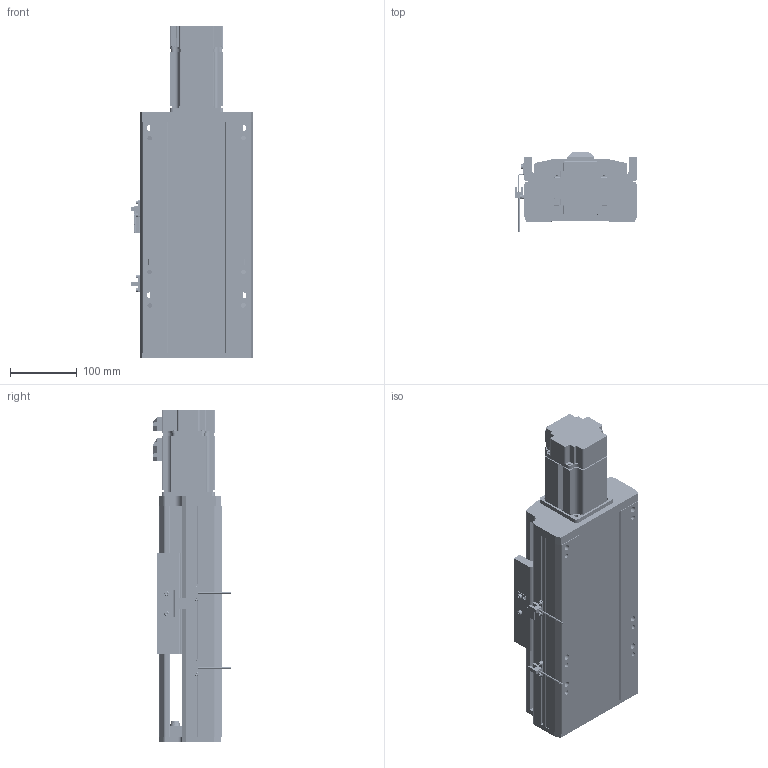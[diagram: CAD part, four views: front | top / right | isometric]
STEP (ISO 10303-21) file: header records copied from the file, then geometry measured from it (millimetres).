
FILE_DESCRIPTION (( 'STEP AP214' ), '1' );
FILE_NAME ('CTH170-100.STEP', '2019-11-25T08:44:18', ( '微软用户' ), ( '微软中国' ), 'SwSTEP 2.0', 'SolidWorks 2017', '' );
FILE_SCHEMA (( 'AUTOMOTIVE_DESIGN' ));
Length unit declared in the file: millimetre
Products named in the file (32): 170萇儂啣; CT17耀郪-覜茼んえ; 170傷啣; M6-L20囀鞠褒蹟佪; EGH20CA; 蚾饜极3^CTH170-L10-200; M5-L20囀鞠褒蹟佪-BR L; M4-L10囀鞠褒蹟佪-BR L; M5-L10囀鞠褒蹟佪; 坶踡蹟簽M15x1; EGH20CA_BLOCK; 潔路遠COL15-A; EG20_RAIL; MISUMI_B7002-DB_盄俶絳砃粣; 170賑怢; BEARING_MISUMI_B7002-DB_盄俶絳砃粣; 170裔啣^CTH170-L10-200; 錨璃8^蚾饜极3_CTH170-L10-200; 錨璃2; 复件 轴承座^装配体3_CTH170-L10-200; 佪話盓傅釱^CTH170-L10-200; CTH170-100; M5-L16囀鞠褒蹟佪; 遣喳蝶15x12x8-BR L; 支撑座^丝杠支撑座_CTH170-L10-200; B6002Z; _C-BSST2005_n; SFS2005-411-SZC; SFH2010佪裝; M3-L8囀鞠褒蹟佪; 80EMA-016A; EE-SX672峚倰換覜ん
Assembly tree (79 placements, depth 4):
  CTH170-100
    錨璃2
    170裔啣^CTH170-L10-200
    170賑怢
    EGH20CA  x2
      EG20_RAIL
      EGH20CA_BLOCK
      M5-L10囀鞠褒蹟佪
      M5-L20囀鞠褒蹟佪-BR L
    170傷啣
    170萇儂啣
    80EMA-016A
    SFS2005-411-SZC
      SFH2010佪裝
    _C-BSST2005_n
    佪話盓傅釱^CTH170-L10-200
      B6002Z
      支撑座^丝杠支撑座_CTH170-L10-200
      遣喳蝶15x12x8-BR L  x2
      M5-L16囀鞠褒蹟佪  x2
    蚾饜极3^CTH170-L10-200
      复件 轴承座^装配体3_CTH170-L10-200
      錨璃8^蚾饜极3_CTH170-L10-200
      MISUMI_B7002-DB_盄俶絳砃粣
        BEARING_MISUMI_B7002-DB_盄俶絳砃粣  x2
      潔路遠COL15-A  x2
      坶踡蹟簽M15x1
      M5-L16囀鞠褒蹟佪  x6
      M4-L10囀鞠褒蹟佪-BR L  x4
    遣喳蝶15x12x8-BR L  x2
    M6-L20囀鞠褒蹟佪  x4
    M4-L10囀鞠褒蹟佪-BR L  x10
    M5-L16囀鞠褒蹟佪  x4
    CT17耀郪-覜茼んえ
    EE-SX672峚倰換覜ん  x2
    M3-L8囀鞠褒蹟佪  x4
Bounding box: 183.7 x 117.95 x 496 mm (x, y, z)
Volume: 3600105.2 mm3; surface area: 978421.2 mm2
Topology: 91 solids, 92 shells, 5429 faces, 14175 edges, 9048 vertices
Faces by surface type: plane 3082, cylinder 1368, cone 597, bspline 342, torus 40
Entity records: 95184 total; most frequent: CARTESIAN_POINT 20287, ORIENTED_EDGE 13652, DIRECTION 13237, EDGE_CURVE 6826, AXIS2_PLACEMENT_3D 4560, VERTEX_POINT 4436, LINE 4117, VECTOR 4117
